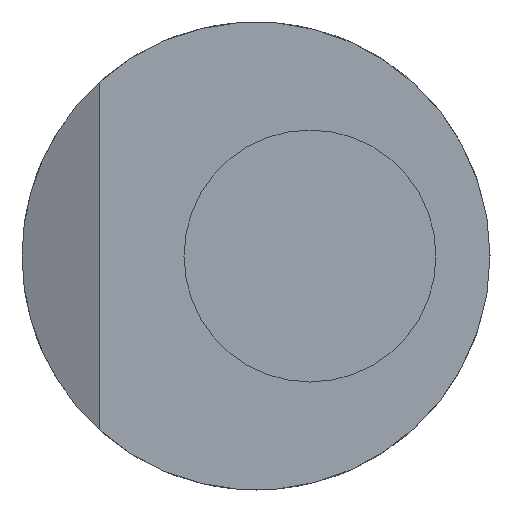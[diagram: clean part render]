
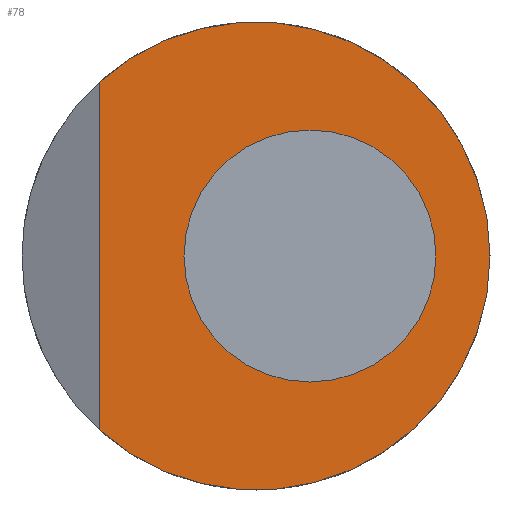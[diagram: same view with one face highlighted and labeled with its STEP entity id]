
A CAD part, left-side view. The second image highlights one B-rep face of the part: STEP entity #78.
In plain terms, the highlighted planar face has unit normal (-1, 0, 0).
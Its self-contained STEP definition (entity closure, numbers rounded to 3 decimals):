
#78 = ADVANCED_FACE( '', ( #90, #91 ), #92, .T. );
#90 = FACE_OUTER_BOUND( '', #107, .T. );
#91 = FACE_BOUND( '', #108, .T. );
#92 = PLANE( '', #109 );
#107 = EDGE_LOOP( '', ( #139, #140, #141 ) );
#108 = EDGE_LOOP( '', ( #142, #143 ) );
#109 = AXIS2_PLACEMENT_3D( '', #144, #145, #146 );
#139 = ORIENTED_EDGE( '', *, *, #181, .T. );
#140 = ORIENTED_EDGE( '', *, *, #175, .T. );
#141 = ORIENTED_EDGE( '', *, *, #183, .T. );
#142 = ORIENTED_EDGE( '', *, *, #184, .T. );
#143 = ORIENTED_EDGE( '', *, *, #178, .T. );
#144 = CARTESIAN_POINT( '', ( 0., 2.375, 0. ) );
#145 = DIRECTION( '', ( -1., 0., 0. ) );
#146 = DIRECTION( '', ( 0., 1., 0. ) );
#175 = EDGE_CURVE( '', #194, #192, #195, .T. );
#178 = EDGE_CURVE( '', #200, #197, #201, .T. );
#181 = EDGE_CURVE( '', #205, #194, #206, .T. );
#183 = EDGE_CURVE( '', #192, #205, #208, .T. );
#184 = EDGE_CURVE( '', #197, #200, #209, .T. );
#192 = VERTEX_POINT( '', #218 );
#194 = VERTEX_POINT( '', #221 );
#195 = CIRCLE( '', #222, 3.25 );
#197 = VERTEX_POINT( '', #224 );
#200 = VERTEX_POINT( '', #228 );
#201 = CIRCLE( '', #229, 1.75 );
#205 = VERTEX_POINT( '', #234 );
#206 = LINE( '', #235, #236 );
#208 = CIRCLE( '', #238, 3.25 );
#209 = CIRCLE( '', #239, 1.75 );
#218 = CARTESIAN_POINT( '', ( 0., -2.5, 0. ) );
#221 = CARTESIAN_POINT( '', ( 0., 2.928, -2.412 ) );
#222 = AXIS2_PLACEMENT_3D( '', #247, #248, #249 );
#224 = CARTESIAN_POINT( '', ( 0., 1.75, 0. ) );
#228 = CARTESIAN_POINT( '', ( 0., -1.75, 0. ) );
#229 = AXIS2_PLACEMENT_3D( '', #254, #255, #256 );
#234 = CARTESIAN_POINT( '', ( 0., 2.928, 2.412 ) );
#235 = CARTESIAN_POINT( '', ( 0., 2.928, 2.5 ) );
#236 = VECTOR( '', #261, 1. );
#238 = AXIS2_PLACEMENT_3D( '', #265, #266, #267 );
#239 = AXIS2_PLACEMENT_3D( '', #268, #269, #270 );
#247 = CARTESIAN_POINT( '', ( 0., 0.75, 0. ) );
#248 = DIRECTION( '', ( -1., 0., 0. ) );
#249 = DIRECTION( '', ( 0., 1., 0. ) );
#254 = CARTESIAN_POINT( '', ( 0., 0., 0. ) );
#255 = DIRECTION( '', ( 1., 0., 0. ) );
#256 = DIRECTION( '', ( 0., 1., 0. ) );
#261 = DIRECTION( '', ( 0., 0., -1. ) );
#265 = CARTESIAN_POINT( '', ( 0., 0.75, 0. ) );
#266 = DIRECTION( '', ( -1., 0., 0. ) );
#267 = DIRECTION( '', ( 0., 1., 0. ) );
#268 = CARTESIAN_POINT( '', ( 0., 0., 0. ) );
#269 = DIRECTION( '', ( 1., 0., 0. ) );
#270 = DIRECTION( '', ( 0., 1., 0. ) );
